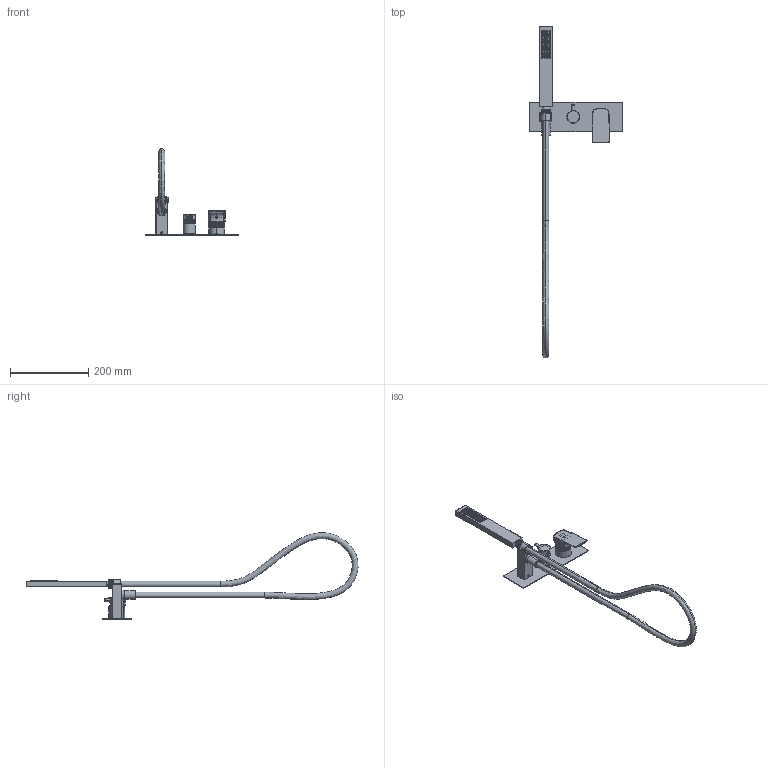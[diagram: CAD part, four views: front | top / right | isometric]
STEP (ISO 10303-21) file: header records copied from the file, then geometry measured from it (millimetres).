
FILE_DESCRIPTION((''),'2;1');
FILE_NAME('75529V3_SW0001','2024-10-08T09:40:54',('volponeff'),(''),'CREO PARAMETRIC BY PTC INC, 2022014','CREO PARAMETRIC BY PTC INC, 2022014','');
FILE_SCHEMA(('CONFIG_CONTROL_DESIGN'));
Products named in the file (1): 75529V3_SW0001
Bounding box: 235 x 848.01 x 221.18 mm (x, y, z)
Volume: 467847.1 mm3; surface area: 225474.5 mm2
Topology: 6 solids, 6 shells, 2046 faces, 5197 edges, 3221 vertices
Faces by surface type: cylinder 646, plane 568, torus 382, cone 277, bspline 143, sphere 30
Entity records: 118154 total; most frequent: CARTESIAN_POINT 69460, ORIENTED_EDGE 10334, DIRECTION 10183, EDGE_CURVE 5167, AXIS2_PLACEMENT_3D 4143, VERTEX_POINT 3221, EDGE_LOOP 2240, CIRCLE 2240
